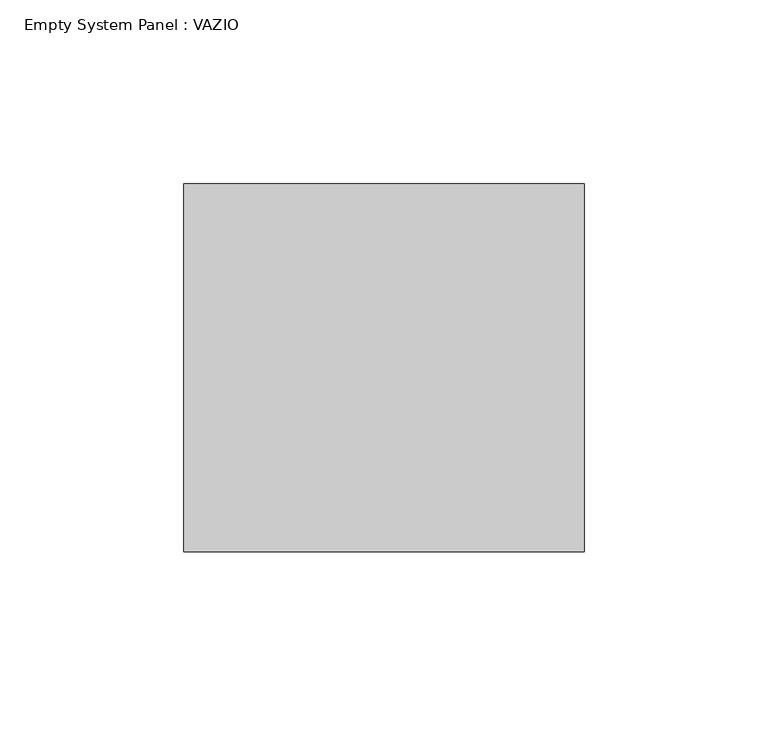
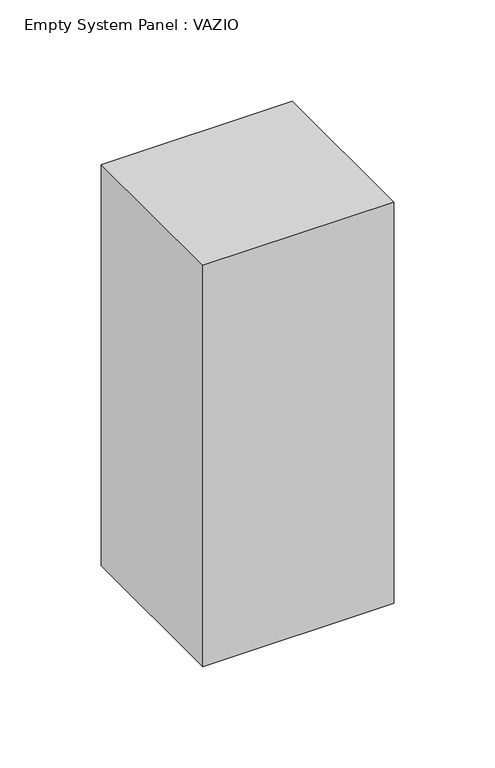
"""IFC4 building model written with IfcOpenShell, lengths in millimetres: plate geometry, Empty System Panel : VAZIO."""

import ifcopenshell
import ifcopenshell.guid

model = None  # the IFC model being written
_history = None  # IfcOwnerHistory: only IFC2X3 demands one
_inside = {}  # id of a spatial element -> (the spatial element, [elements in it])
_under = {}  # id of a project, library or spatial element -> (it, [spatial elements below it])
_declared = {}  # id of a project -> (the project, [libraries it declares])
_typed = {}  # id of a type object -> (the type object, [elements of that type])
_made_of = {}  # id of a material, layer set ... -> (it, [elements and type objects made of it])


def new_model(schema):
    """Start an empty IFC model of exactly this schema.

    Asked for "IFC4X3", IfcOpenShell would pick the latest addendum, in which some entities
    have other attributes; the version numbers below select the first issue.
    IFC2X3 requires an IfcOwnerHistory on every rooted entity: one is made here for all.
    """
    global model, _history
    if schema == "IFC4X3":
        model = ifcopenshell.file(schema_version=(4, 3, 0, 0))
    else:
        model = ifcopenshell.file(schema=schema)
    _inside.clear()
    _under.clear()
    _declared.clear()
    _typed.clear()
    _made_of.clear()
    _history = None
    if model.schema == "IFC2X3":
        org = make("IfcOrganization", Name="unknown")
        user = make(
            "IfcPersonAndOrganization",
            ThePerson=make("IfcPerson", FamilyName="unknown"),
            TheOrganization=org,
        )
        app = make(
            "IfcApplication",
            ApplicationDeveloper=org,
            Version="unknown",
            ApplicationFullName="unknown",
            ApplicationIdentifier="unknown",
        )
        _history = make(
            "IfcOwnerHistory",
            OwningUser=user,
            OwningApplication=app,
            ChangeAction="ADDED",
            CreationDate=0,
        )
    return model


def make(cls, **values):
    """One entity of the class cls with the attributes given. An attribute that is None is left unset."""
    return model.create_entity(
        cls, **{name: value for name, value in values.items() if value is not None}
    )


def rooted(cls, **values):
    """An entity with a GlobalId (a new one), such as an element, a storey or a relation."""
    return make(cls, GlobalId=ifcopenshell.guid.new(), OwnerHistory=_history, **values)


def si_unit(unit_type, name, prefix=None):
    """IfcSIUnit, for example si_unit("LENGTHUNIT", "METRE", prefix="MILLI")."""
    return make("IfcSIUnit", UnitType=unit_type, Prefix=prefix, Name=name)


def assignment(units):
    """IfcUnitAssignment: the units of a project."""
    return None if units is None else make("IfcUnitAssignment", Units=units)


def point(xyz):
    """IfcCartesianPoint."""
    return None if xyz is None else make("IfcCartesianPoint", Coordinates=xyz)


def direction(xyz):
    """IfcDirection."""
    return None if xyz is None else make("IfcDirection", DirectionRatios=xyz)


def frame(location, z_axis=None, x_axis=None):
    """IfcAxis2Placement3D, a coordinate frame: its origin and axes. An axis left out is left unset."""
    return make(
        "IfcAxis2Placement3D",
        Location=point(location),
        Axis=direction(z_axis),
        RefDirection=direction(x_axis),
    )


def origin():
    """The frame at (0, 0, 0) with its axes left unset."""
    return frame((0.0, 0.0, 0.0))


def origin_with_axes():
    """The frame at (0, 0, 0) with the z axis (0, 0, 1) and the x axis (1, 0, 0) written out."""
    return frame((0.0, 0.0, 0.0), z_axis=(0.0, 0.0, 1.0), x_axis=(1.0, 0.0, 0.0))


def place(relative_to, where):
    """IfcLocalPlacement: puts the frame where relative to a parent placement (None: the world)."""
    return make(
        "IfcLocalPlacement", PlacementRelTo=relative_to, RelativePlacement=where
    )


def context(
    kind, dimensions, precision=None, world=None, true_north=None, identifier=None
):
    """IfcGeometricRepresentationContext, for example the 3D "Model" context."""
    return make(
        "IfcGeometricRepresentationContext",
        ContextIdentifier=identifier,
        ContextType=kind,
        CoordinateSpaceDimension=dimensions,
        Precision=precision,
        WorldCoordinateSystem=world,
        TrueNorth=true_north,
    )


def project(units=None, contexts=None):
    """IfcProject with its units and contexts."""
    return rooted(
        "IfcProject",
        Name="project",
        RepresentationContexts=contexts,
        UnitsInContext=assignment(units),
    )


def spatial(cls, under=None, at=None, **own):
    """A site, building, storey or space (cls), placed at a placement, below another one or the project."""
    s = rooted(cls, ObjectPlacement=at, **own)
    if under is not None:
        _under.setdefault(under.id(), (under, []))[1].append(s)
    return s


def polyline(points):
    """IfcPolyline through the points."""
    return make("IfcPolyline", Points=[point(p) for p in points])


def outline(outer, holes=None, kind="AREA"):
    """IfcArbitraryClosedProfileDef: a profile drawn as a closed curve; with holes, ...WithVoids."""
    if holes is None:
        return make("IfcArbitraryClosedProfileDef", ProfileType=kind, OuterCurve=outer)
    return make(
        "IfcArbitraryProfileDefWithVoids",
        ProfileType=kind,
        OuterCurve=outer,
        InnerCurves=holes,
    )


def extrude(swept, where, along, depth):
    """IfcExtrudedAreaSolid: the profile swept, set in the frame where, extruded along a direction by depth."""
    return make(
        "IfcExtrudedAreaSolid",
        SweptArea=swept,
        Position=where,
        ExtrudedDirection=direction(along),
        Depth=depth,
    )


def shape(context_of_items, identifier, shape_type, items):
    """IfcShapeRepresentation: the items that make up one representation, for example the "Body"."""
    return make(
        "IfcShapeRepresentation",
        ContextOfItems=context_of_items,
        RepresentationIdentifier=identifier,
        RepresentationType=shape_type,
        Items=items,
    )


def source(mapping_origin, context_of_items, identifier, shape_type, items):
    """IfcRepresentationMap: a shape defined once, which mapped items show again and again."""
    return make(
        "IfcRepresentationMap",
        MappingOrigin=mapping_origin,
        MappedRepresentation=shape(context_of_items, identifier, shape_type, items),
    )


def transform(
    local_origin,
    x_axis=None,
    y_axis=None,
    z_axis=None,
    scale=None,
    scale2=None,
    scale3=None,
    uniform=True,
):
    """IfcCartesianTransformationOperator3D, or its non-uniform kind. x_axis, y_axis, z_axis: its Axis1, 2, 3."""
    if uniform:
        return make(
            "IfcCartesianTransformationOperator3D",
            Axis1=direction(x_axis),
            Axis2=direction(y_axis),
            LocalOrigin=point(local_origin),
            Scale=scale,
            Axis3=direction(z_axis),
        )
    return make(
        "IfcCartesianTransformationOperator3DnonUniform",
        Axis1=direction(x_axis),
        Axis2=direction(y_axis),
        LocalOrigin=point(local_origin),
        Scale=scale,
        Axis3=direction(z_axis),
        Scale2=scale2,
        Scale3=scale3,
    )


def mapped(mapping_source, mapping_target):
    """IfcMappedItem: shows the shape of a source again, moved by a transform."""
    return make(
        "IfcMappedItem", MappingSource=mapping_source, MappingTarget=mapping_target
    )


def made_of(thing, what):
    """Note that an element or type object is made of a material, layer set ...; save() writes the relation."""
    if what is not None:
        _made_of.setdefault(what.id(), (what, []))[1].append(thing)
    return thing


def element(
    cls,
    number,
    at=None,
    inside=None,
    cuts=None,
    type_object=None,
    material=None,
    context=None,
    identifier="Body",
    shape_type=None,
    held_by="IfcProductDefinitionShape",
    body=None,
    shapes=None,
    **own,
):
    """One element of the class cls, such as IfcWall. Its Tag is "e" and its number.

    at: its placement. inside: the storey or other place that contains it. cuts: it is an
    opening in that element (IfcRelVoidsElement). A single representation is given by context,
    identifier, shape_type and body (its items); several are given by shapes. held_by: the class
    of the entity that holds the representations. save() writes the other relations.
    """
    e = rooted(cls, Tag="e%d" % number, ObjectPlacement=at, **own)
    if body is not None:
        shapes = [shape(context, identifier, shape_type, body)]
    if shapes is not None:
        e.Representation = make(held_by, Representations=shapes)
    if inside is not None:
        _inside.setdefault(inside.id(), (inside, []))[1].append(e)
    if cuts is not None:
        rooted(
            "IfcRelVoidsElement", RelatingBuildingElement=cuts, RelatedOpeningElement=e
        )
    if type_object is not None:
        _typed.setdefault(type_object.id(), (type_object, []))[1].append(e)
    return made_of(e, material)


def aggregate(whole, parts):
    """IfcRelAggregates: a whole, such as a stair, and the parts it consists of."""
    return rooted("IfcRelAggregates", RelatingObject=whole, RelatedObjects=parts)


def save(model, path):
    """Write the relations noted so far, then the file.

    IfcRelAggregates (storeys below a building ...), IfcRelContainedInSpatialStructure (elements
    in a storey), IfcRelDefinesByType, IfcRelAssociatesMaterial and IfcRelDeclares: one each for
    every whole, place, type object, material and project.
    """
    for whole, parts in _under.values():
        aggregate(whole, parts)
    for where, things in _inside.values():
        rooted(
            "IfcRelContainedInSpatialStructure",
            RelatedElements=things,
            RelatingStructure=where,
        )
    for kind, things in _typed.values():
        rooted("IfcRelDefinesByType", RelatedObjects=things, RelatingType=kind)
    for what, things in _made_of.values():
        rooted("IfcRelAssociatesMaterial", RelatedObjects=things, RelatingMaterial=what)
    for by, libraries in _declared.values():
        rooted("IfcRelDeclares", RelatingContext=by, RelatedDefinitions=libraries)
    model.write(path)


def empty_system_panel_vazio_14d0cb9b(model_context):
    return source(origin(), model_context, "Body", "SweptSolid", [
        extrude(outline(polyline([(54.3902439, -50.0), (-54.3902439, -50.0), (-54.3902439, 50.0), (54.3902439, 50.0), (54.3902439, -50.0)])), origin_with_axes(), (0.0, 0.0, 1.0), 241.7936467),
    ])


if __name__ == "__main__":
    model = new_model("IFC4")
    model_context = context("Model", 3, world=origin())
    ifc_project = project(units=[si_unit("LENGTHUNIT", "METRE", prefix="MILLI")], contexts=[model_context])
    site = spatial("IfcSite", under=ifc_project)
    building = spatial("IfcBuilding", under=site)
    placement = place(None, origin())
    empty_system_panel_vazio_shape = empty_system_panel_vazio_14d0cb9b(model_context)
    element("IfcPlate", 1, ObjectType="Empty System Panel : VAZIO", at=placement, inside=building, context=model_context, shape_type="MappedRepresentation", body=[
        mapped(empty_system_panel_vazio_shape, transform((0.0, 0.0, 0.0), x_axis=(1.0, 0.0, 0.0), y_axis=(0.0, 1.0, 0.0), z_axis=(0.0, 0.0, 1.0))),
    ])
    save(model, "model.ifc")
